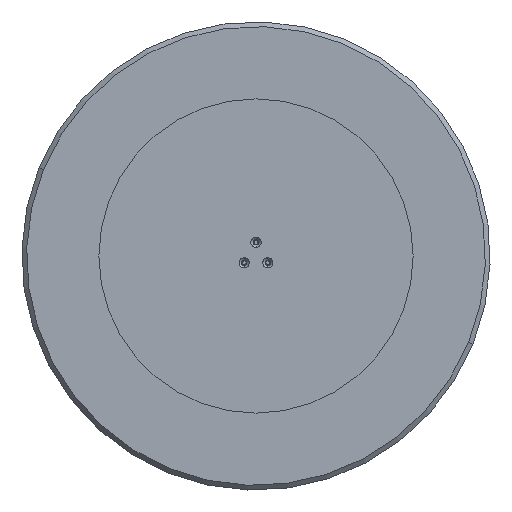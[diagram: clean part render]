
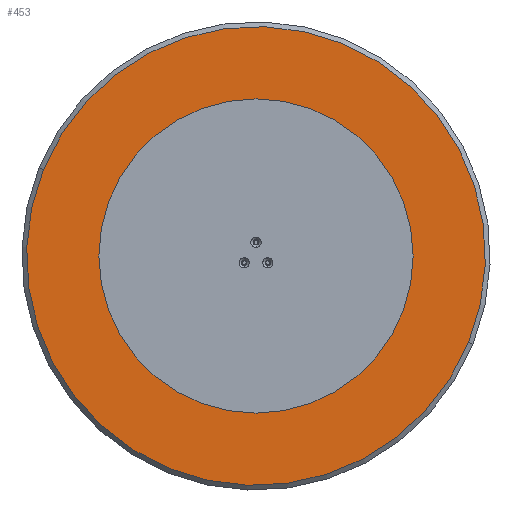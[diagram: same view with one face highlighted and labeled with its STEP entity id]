
A CAD part, front view. The second image highlights one B-rep face of the part: STEP entity #453.
In plain terms, the highlighted planar face has unit normal (0, -1, 0).
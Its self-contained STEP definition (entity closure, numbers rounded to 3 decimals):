
#401 = CARTESIAN_POINT ( 'NONE',  ( 0., 0., 0. ) ) ;
#413 = CARTESIAN_POINT ( 'NONE',  ( 0., 0., 0. ) ) ;
#432 = EDGE_CURVE ( 'NONE', #2563, #1047, #2822, .T. ) ;
#453 = ADVANCED_FACE ( 'NONE', ( #2312 ), #1344, .T. ) ;
#675 = ORIENTED_EDGE ( 'NONE', *, *, #432, .T. ) ;
#710 = DIRECTION ( 'NONE',  ( 0., 0., -1. ) ) ;
#745 = AXIS2_PLACEMENT_3D ( 'NONE', #413, #3498, #2609 ) ;
#1022 = DIRECTION ( 'NONE',  ( 0., 0., -1. ) ) ;
#1047 = VERTEX_POINT ( 'NONE', #2448 ) ;
#1073 = DIRECTION ( 'NONE',  ( 0., -1., 0. ) ) ;
#1138 = CIRCLE ( 'NONE', #745, 387. ) ;
#1344 = PLANE ( 'NONE',  #2036 ) ;
#1356 = CARTESIAN_POINT ( 'NONE',  ( 0., 0., -387. ) ) ;
#1674 = DIRECTION ( 'NONE',  ( 0., -1., 0. ) ) ;
#2036 = AXIS2_PLACEMENT_3D ( 'NONE', #401, #1674, #710 ) ;
#2294 = AXIS2_PLACEMENT_3D ( 'NONE', #3194, #1073, #1022 ) ;
#2312 = FACE_OUTER_BOUND ( 'NONE', #3648, .T. ) ;
#2448 = CARTESIAN_POINT ( 'NONE',  ( 0., 0., 387. ) ) ;
#2465 = EDGE_CURVE ( 'NONE', #1047, #2563, #1138, .T. ) ;
#2563 = VERTEX_POINT ( 'NONE', #1356 ) ;
#2609 = DIRECTION ( 'NONE',  ( 0., 0., -1. ) ) ;
#2628 = ORIENTED_EDGE ( 'NONE', *, *, #2465, .T. ) ;
#2822 = CIRCLE ( 'NONE', #2294, 387. ) ;
#3194 = CARTESIAN_POINT ( 'NONE',  ( 0., 0., 0. ) ) ;
#3498 = DIRECTION ( 'NONE',  ( 0., -1., 0. ) ) ;
#3648 = EDGE_LOOP ( 'NONE', ( #2628, #675 ) ) ;
